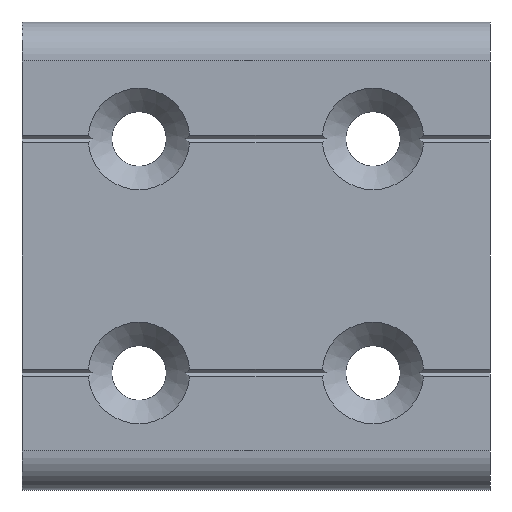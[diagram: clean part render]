
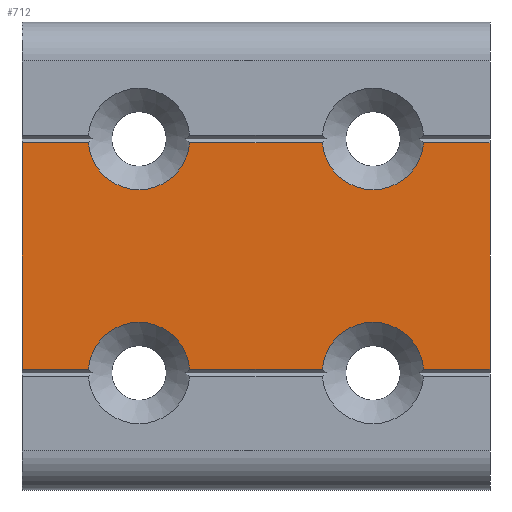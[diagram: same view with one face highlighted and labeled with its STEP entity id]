
A CAD part, front view. The second image highlights one B-rep face of the part: STEP entity #712.
In plain terms, the highlighted planar face has unit normal (0, -1, 0).
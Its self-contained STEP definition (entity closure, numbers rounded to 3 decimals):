
#47=CIRCLE('',#746,6.5);
#48=CIRCLE('',#747,6.5);
#49=CIRCLE('',#748,6.5);
#50=CIRCLE('',#749,6.5);
#67=ORIENTED_EDGE('',*,*,#215,.F.);
#68=ORIENTED_EDGE('',*,*,#216,.T.);
#69=ORIENTED_EDGE('',*,*,#217,.F.);
#70=ORIENTED_EDGE('',*,*,#218,.T.);
#71=ORIENTED_EDGE('',*,*,#219,.F.);
#72=ORIENTED_EDGE('',*,*,#220,.T.);
#73=ORIENTED_EDGE('',*,*,#221,.F.);
#74=ORIENTED_EDGE('',*,*,#222,.T.);
#75=ORIENTED_EDGE('',*,*,#223,.F.);
#76=ORIENTED_EDGE('',*,*,#224,.T.);
#77=ORIENTED_EDGE('',*,*,#225,.F.);
#78=ORIENTED_EDGE('',*,*,#226,.T.);
#215=EDGE_CURVE('',#289,#290,#341,.T.);
#216=EDGE_CURVE('',#289,#291,#47,.T.);
#217=EDGE_CURVE('',#292,#291,#342,.T.);
#218=EDGE_CURVE('',#292,#293,#343,.T.);
#219=EDGE_CURVE('',#294,#293,#344,.T.);
#220=EDGE_CURVE('',#294,#295,#48,.T.);
#221=EDGE_CURVE('',#296,#295,#345,.T.);
#222=EDGE_CURVE('',#296,#297,#49,.T.);
#223=EDGE_CURVE('',#298,#297,#346,.T.);
#224=EDGE_CURVE('',#298,#299,#347,.T.);
#225=EDGE_CURVE('',#300,#299,#348,.T.);
#226=EDGE_CURVE('',#300,#290,#50,.T.);
#289=VERTEX_POINT('',#932);
#290=VERTEX_POINT('',#933);
#291=VERTEX_POINT('',#935);
#292=VERTEX_POINT('',#937);
#293=VERTEX_POINT('',#939);
#294=VERTEX_POINT('',#941);
#295=VERTEX_POINT('',#943);
#296=VERTEX_POINT('',#945);
#297=VERTEX_POINT('',#947);
#298=VERTEX_POINT('',#949);
#299=VERTEX_POINT('',#951);
#300=VERTEX_POINT('',#953);
#341=LINE('',#931,#379);
#342=LINE('',#936,#380);
#343=LINE('',#938,#381);
#344=LINE('',#940,#382);
#345=LINE('',#944,#383);
#346=LINE('',#948,#384);
#347=LINE('',#950,#385);
#348=LINE('',#952,#386);
#379=VECTOR('',#797,1000.);
#380=VECTOR('',#800,1000.);
#381=VECTOR('',#801,1000.);
#382=VECTOR('',#802,1000.);
#383=VECTOR('',#805,1000.);
#384=VECTOR('',#808,1000.);
#385=VECTOR('',#809,1000.);
#386=VECTOR('',#810,1000.);
#417=EDGE_LOOP('',(#67,#68,#69,#70,#71,#72,#73,#74,#75,#76,#77,#78));
#457=FACE_BOUND('',#417,.T.);
#497=PLANE('',#745);
#712=ADVANCED_FACE('',(#457),#497,.T.);
#745=AXIS2_PLACEMENT_3D('',#930,#795,#796);
#746=AXIS2_PLACEMENT_3D('',#934,#798,#799);
#747=AXIS2_PLACEMENT_3D('',#942,#803,#804);
#748=AXIS2_PLACEMENT_3D('',#946,#806,#807);
#749=AXIS2_PLACEMENT_3D('',#954,#811,#812);
#795=DIRECTION('',(0.,-1.,0.));
#796=DIRECTION('',(0.,0.,-1.));
#797=DIRECTION('',(1.,0.,0.));
#798=DIRECTION('',(0.,1.,0.));
#799=DIRECTION('',(0.,0.,1.));
#800=DIRECTION('',(1.,0.,0.));
#801=DIRECTION('',(0.,0.,-1.));
#802=DIRECTION('',(-1.,0.,0.));
#803=DIRECTION('',(0.,1.,0.));
#804=DIRECTION('',(0.,0.,1.));
#805=DIRECTION('',(-1.,0.,0.));
#806=DIRECTION('',(0.,1.,0.));
#807=DIRECTION('',(0.,0.,1.));
#808=DIRECTION('',(-1.,0.,0.));
#809=DIRECTION('',(0.,0.,1.));
#810=DIRECTION('',(1.,0.,0.));
#811=DIRECTION('',(0.,1.,0.));
#812=DIRECTION('',(0.,0.,1.));
#930=CARTESIAN_POINT('',(0.,0.,0.));
#931=CARTESIAN_POINT('',(-55.,0.,14.5));
#932=CARTESIAN_POINT('',(-8.519,0.,14.5));
#933=CARTESIAN_POINT('',(8.519,0.,14.5));
#934=CARTESIAN_POINT('',(-15.,0.,15.));
#935=CARTESIAN_POINT('',(-21.481,0.,14.5));
#936=CARTESIAN_POINT('',(-55.,0.,14.5));
#937=CARTESIAN_POINT('',(-30.,0.,14.5));
#938=CARTESIAN_POINT('',(-30.,0.,30.));
#939=CARTESIAN_POINT('',(-30.,0.,-14.5));
#940=CARTESIAN_POINT('',(0.,0.,-14.5));
#941=CARTESIAN_POINT('',(-21.481,0.,-14.5));
#942=CARTESIAN_POINT('',(-15.,0.,-15.));
#943=CARTESIAN_POINT('',(-8.519,0.,-14.5));
#944=CARTESIAN_POINT('',(0.,0.,-14.5));
#945=CARTESIAN_POINT('',(8.519,0.,-14.5));
#946=CARTESIAN_POINT('',(15.,0.,-15.));
#947=CARTESIAN_POINT('',(21.481,0.,-14.5));
#948=CARTESIAN_POINT('',(0.,0.,-14.5));
#949=CARTESIAN_POINT('',(30.,0.,-14.5));
#950=CARTESIAN_POINT('',(30.,0.,-30.));
#951=CARTESIAN_POINT('',(30.,0.,14.5));
#952=CARTESIAN_POINT('',(-55.,0.,14.5));
#953=CARTESIAN_POINT('',(21.481,0.,14.5));
#954=CARTESIAN_POINT('',(15.,0.,15.));
